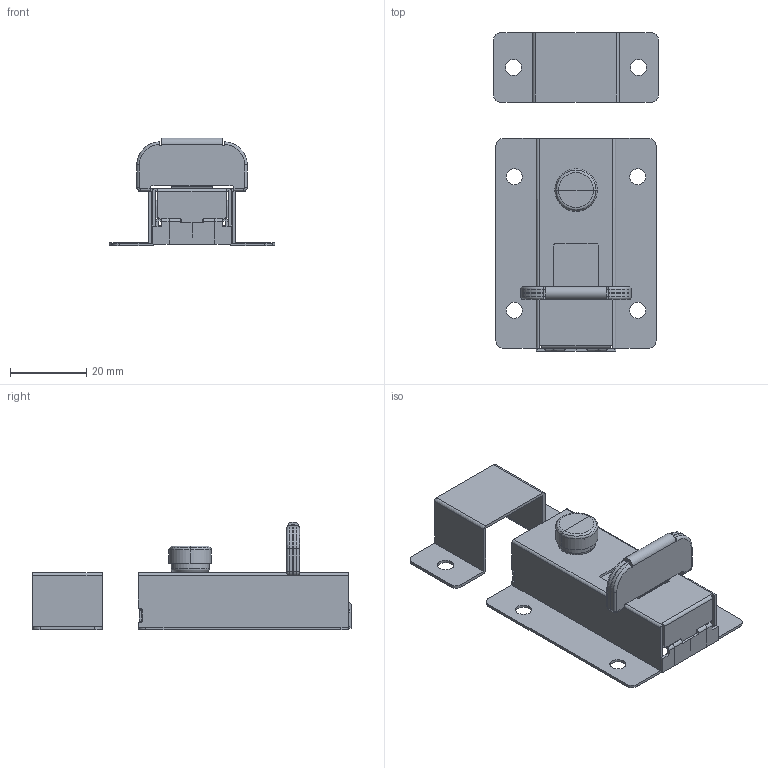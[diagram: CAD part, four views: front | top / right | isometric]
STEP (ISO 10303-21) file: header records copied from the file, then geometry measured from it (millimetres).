
FILE_DESCRIPTION(/* description */ (''),/* implementation_level */ '2;1');
FILE_NAME(/* name */ 'CX102-B',/* time_stamp */ '2025-05-14T16:01:42+08:00',/* author */ (''),/* organization */ (''),/* preprocessor_version */ 'ST-DEVELOPER v19.2',/* originating_system */ 'Rhino 8.5',/* authorisation */ '');
FILE_SCHEMA (('CONFIG_CONTROL_DESIGN'));
Length unit declared in the file: millimetre
Products named in the file (3): Document; 图块 02; 图块 01
Bounding box: 43.4 x 83.56 x 28.3 mm (x, y, z)
Volume: 5818.9 mm3; surface area: 21351.6 mm2
Topology: 10 solids, 13 shells, 799 faces, 2161 edges, 1357 vertices
Faces by surface type: plane 446, cylinder 295, bspline 58
Entity records: 28117 total; most frequent: CARTESIAN_POINT 11253, ORIENTED_EDGE 4298, EDGE_CURVE 2161, DIRECTION 1717, B_SPLINE_CURVE_WITH_KNOTS 1639, VERTEX_POINT 1358, AXIS2_PLACEMENT_3D 1229, EDGE_LOOP 829
